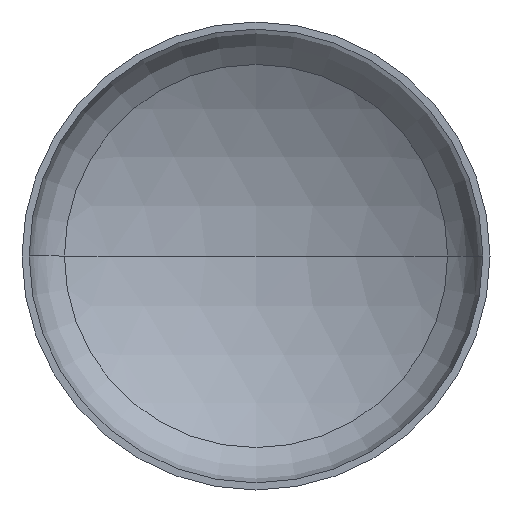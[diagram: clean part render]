
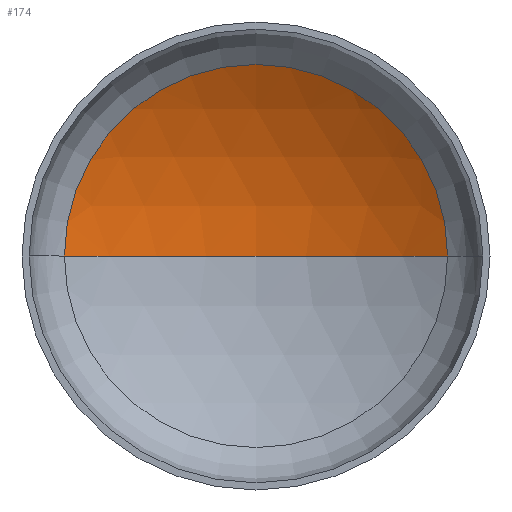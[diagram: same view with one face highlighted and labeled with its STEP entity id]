
A CAD part, front view. The second image highlights one B-rep face of the part: STEP entity #174.
In plain terms, the highlighted spherical face has radius 4800 mm.
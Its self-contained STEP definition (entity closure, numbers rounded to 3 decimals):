
#9 = EDGE_LOOP ( 'NONE', ( #175, #61, #53 ) ) ;
#21 = CARTESIAN_POINT ( 'NONE',  ( 2456.361, 894.704, 0. ) ) ;
#43 = CIRCLE ( 'NONE', #140, 4800. ) ;
#53 = ORIENTED_EDGE ( 'NONE', *, *, #242, .T. ) ;
#56 = VERTEX_POINT ( 'NONE', #411 ) ;
#61 = ORIENTED_EDGE ( 'NONE', *, *, #246, .T. ) ;
#71 = VERTEX_POINT ( 'NONE', #21 ) ;
#76 = DIRECTION ( 'NONE',  ( -1., 0., 0. ) ) ;
#93 = VERTEX_POINT ( 'NONE', #385 ) ;
#106 = DIRECTION ( 'NONE',  ( 1., 0., 0. ) ) ;
#124 = DIRECTION ( 'NONE',  ( 0., 0., 1. ) ) ;
#128 = CARTESIAN_POINT ( 'NONE',  ( 0., -3229.164, 0. ) ) ;
#140 = AXIS2_PLACEMENT_3D ( 'NONE', #128, #124, #106 ) ;
#144 = AXIS2_PLACEMENT_3D ( 'NONE', #355, #356, #76 ) ;
#148 = AXIS2_PLACEMENT_3D ( 'NONE', #212, #317, #334 ) ;
#174 = ADVANCED_FACE ( 'NONE', ( #329 ), #199, .F. ) ;
#175 = ORIENTED_EDGE ( 'NONE', *, *, #251, .F. ) ;
#186 = AXIS2_PLACEMENT_3D ( 'NONE', #320, #280, #318 ) ;
#199 = SPHERICAL_SURFACE ( 'NONE', #186, 4800. ) ;
#212 = CARTESIAN_POINT ( 'NONE',  ( 0., 894.704, 0. ) ) ;
#242 = EDGE_CURVE ( 'NONE', #71, #56, #319, .T. ) ;
#244 = CIRCLE ( 'NONE', #144, 4800. ) ;
#246 = EDGE_CURVE ( 'NONE', #93, #71, #244, .T. ) ;
#251 = EDGE_CURVE ( 'NONE', #93, #56, #43, .T. ) ;
#280 = DIRECTION ( 'NONE',  ( 0., 0., -1. ) ) ;
#317 = DIRECTION ( 'NONE',  ( 0., -1., 0. ) ) ;
#318 = DIRECTION ( 'NONE',  ( -1., 0., 0. ) ) ;
#319 = CIRCLE ( 'NONE', #148, 2456.361 ) ;
#320 = CARTESIAN_POINT ( 'NONE',  ( 0., -3229.164, 0. ) ) ;
#329 = FACE_OUTER_BOUND ( 'NONE', #9, .T. ) ;
#334 = DIRECTION ( 'NONE',  ( 1., 0., 0. ) ) ;
#355 = CARTESIAN_POINT ( 'NONE',  ( 0., -3229.164, 0. ) ) ;
#356 = DIRECTION ( 'NONE',  ( 0., 0., -1. ) ) ;
#385 = CARTESIAN_POINT ( 'NONE',  ( 0., 1570.836, 0. ) ) ;
#411 = CARTESIAN_POINT ( 'NONE',  ( -2456.361, 894.704, 0. ) ) ;
